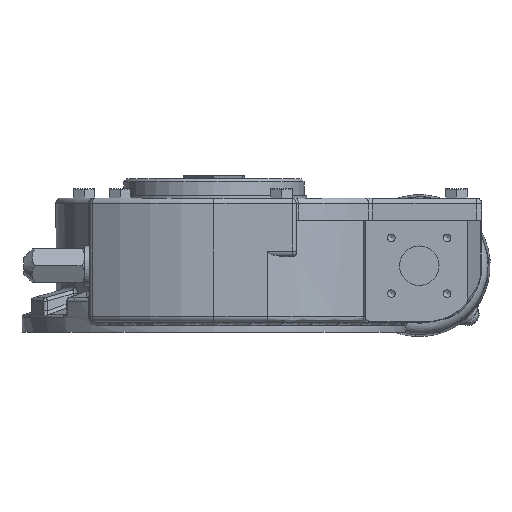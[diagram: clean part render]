
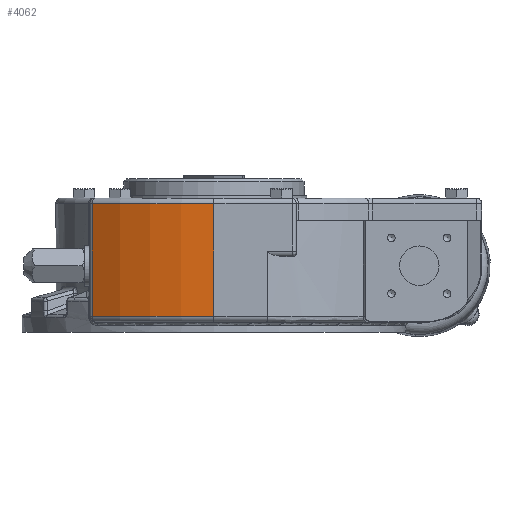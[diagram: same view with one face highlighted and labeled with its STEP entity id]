
A CAD part, left-side view. The second image highlights one B-rep face of the part: STEP entity #4062.
In plain terms, the highlighted cylindrical face has radius 185 mm (diameter 370 mm), a partial arc.
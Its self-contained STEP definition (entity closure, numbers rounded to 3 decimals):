
#4062 = ADVANCED_FACE( '', ( #10052 ), #10053, .T. );
#10052 = FACE_OUTER_BOUND( '', #22624, .T. );
#10053 = CYLINDRICAL_SURFACE( '', #22625, 185. );
#22624 = EDGE_LOOP( '', ( #43147, #43148, #43149, #43150 ) );
#22625 = AXIS2_PLACEMENT_3D( '', #43151, #43152, #43153 );
#43147 = ORIENTED_EDGE( '', *, *, #63298, .T. );
#43148 = ORIENTED_EDGE( '', *, *, #61028, .T. );
#43149 = ORIENTED_EDGE( '', *, *, #60842, .F. );
#43150 = ORIENTED_EDGE( '', *, *, #63299, .T. );
#43151 = CARTESIAN_POINT( '', ( 0., 0., 105. ) );
#43152 = DIRECTION( '', ( 0., 0., 1. ) );
#43153 = DIRECTION( '', ( -1., 0., 0. ) );
#60842 = EDGE_CURVE( '', #70806, #70808, #70809, .T. );
#61028 = EDGE_CURVE( '', #69633, #70808, #71123, .F. );
#63298 = EDGE_CURVE( '', #74819, #69633, #74820, .T. );
#63299 = EDGE_CURVE( '', #70806, #74819, #74821, .F. );
#69633 = VERTEX_POINT( '', #84892 );
#70806 = VERTEX_POINT( '', #87244 );
#70808 = VERTEX_POINT( '', #87247 );
#70809 = LINE( '', #87248, #87249 );
#71123 = CIRCLE( '', #87995, 185. );
#74819 = VERTEX_POINT( '', #96251 );
#74820 = LINE( '', #96252, #96253 );
#74821 = CIRCLE( '', #96254, 185. );
#84892 = CARTESIAN_POINT( '', ( -150.263, 107.917, 17. ) );
#87244 = CARTESIAN_POINT( '', ( -185., 0., 117. ) );
#87247 = CARTESIAN_POINT( '', ( -185., 0., 17. ) );
#87248 = CARTESIAN_POINT( '', ( -185., 0., 105. ) );
#87249 = VECTOR( '', #112905, 1000. );
#87995 = AXIS2_PLACEMENT_3D( '', #113118, #113119, #113120 );
#96251 = CARTESIAN_POINT( '', ( -150.263, 107.917, 117. ) );
#96252 = CARTESIAN_POINT( '', ( -150.263, 107.917, 105. ) );
#96253 = VECTOR( '', #116069, 1000. );
#96254 = AXIS2_PLACEMENT_3D( '', #116070, #116071, #116072 );
#112905 = DIRECTION( '', ( 0., 0., -1. ) );
#113118 = CARTESIAN_POINT( '', ( 0., 0., 17. ) );
#113119 = DIRECTION( '', ( 0., 0., -1. ) );
#113120 = DIRECTION( '', ( -1., 0., 0. ) );
#116069 = DIRECTION( '', ( 0., 0., -1. ) );
#116070 = CARTESIAN_POINT( '', ( 0., 0., 117. ) );
#116071 = DIRECTION( '', ( 0., 0., 1. ) );
#116072 = DIRECTION( '', ( 1., 0., 0. ) );
